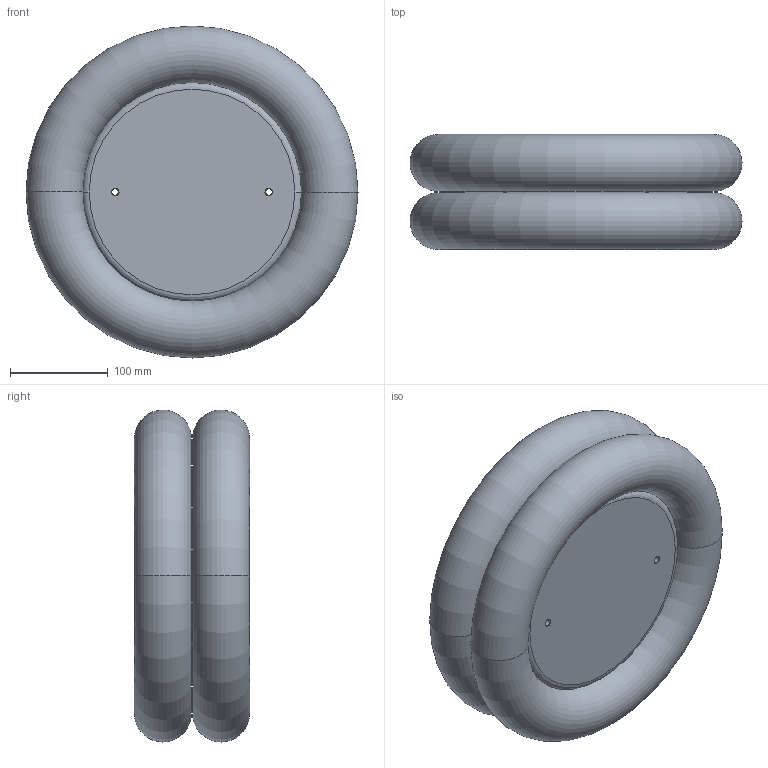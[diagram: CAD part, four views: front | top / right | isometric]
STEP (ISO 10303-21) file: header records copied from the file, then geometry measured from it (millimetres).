
FILE_DESCRIPTION((''),'2;1');
FILE_NAME('2999638300_MIN','2018-05-09T',('tng2hc'),(''),'CREO PARAMETRIC BY PTC INC, 2016260','CREO PARAMETRIC BY PTC INC, 2016260','');
FILE_SCHEMA(('CONFIG_CONTROL_DESIGN'));
Length unit declared in the file: millimetre
Products named in the file (1): 2999638300_MIN
Bounding box: 339.99 x 117.95 x 339.99 mm (x, y, z)
Volume: 6566229.2 mm3; surface area: 491685.2 mm2
Topology: 1 solids, 1 shells, 44 faces, 94 edges, 58 vertices
Faces by surface type: cylinder 18, cone 10, plane 8, torus 8
Entity records: 1288 total; most frequent: DIRECTION 248, CARTESIAN_POINT 196, ORIENTED_EDGE 188, AXIS2_PLACEMENT_3D 110, EDGE_CURVE 94, CIRCLE 66, VERTEX_POINT 58, EDGE_LOOP 58
